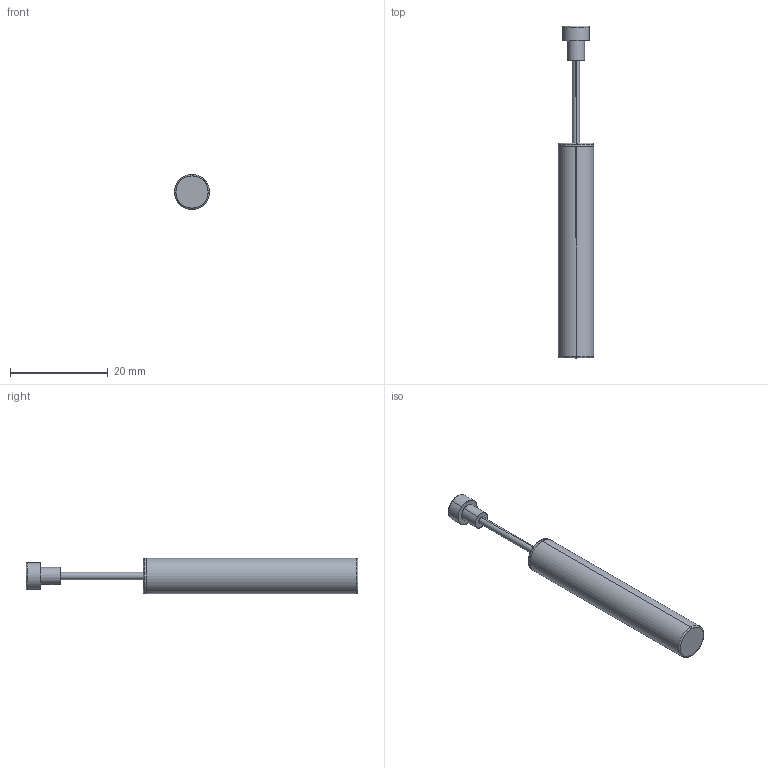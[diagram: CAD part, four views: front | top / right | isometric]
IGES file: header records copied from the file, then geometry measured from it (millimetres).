
Start section: SolidWorks IGES file using analytic representation for surfaces
Bounding box: 7.2 x 68 x 7.2 mm (x, y, z)
Surface area: 1453.5 mm2 (no closed solid volume)
Topology: 0 solids, 0 shells, 22 faces, 352 edges, 352 vertices
Faces by surface type: bspline 12, revolution 10
